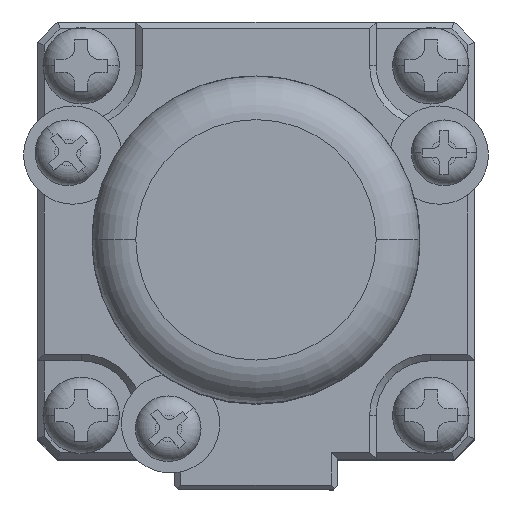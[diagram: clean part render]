
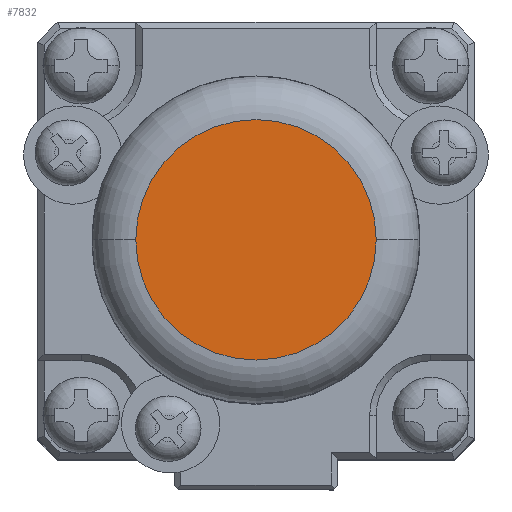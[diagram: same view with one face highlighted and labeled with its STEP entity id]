
A CAD part, top view. The second image highlights one B-rep face of the part: STEP entity #7832.
In plain terms, the highlighted planar face has unit normal (0, 0, 1).
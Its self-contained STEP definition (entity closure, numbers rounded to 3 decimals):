
#124 = AXIS2_PLACEMENT_3D ( 'NONE', #3287, #3288, #3289 ) ;
#126 = AXIS2_PLACEMENT_3D ( 'NONE', #3293, #3294, #3295 ) ;
#550 = VERTEX_POINT ( 'NONE', #922 ) ;
#551 = VERTEX_POINT ( 'NONE', #923 ) ;
#922 = CARTESIAN_POINT ( 'NONE',  ( -5.5, 0., 128.3 ) ) ;
#923 = CARTESIAN_POINT ( 'NONE',  ( 5.5, 0., 128.3 ) ) ;
#1059 = ORIENTED_EDGE ( 'NONE', *, *, #3532, .F. ) ;
#1210 = AXIS2_PLACEMENT_3D ( 'NONE', #7745, #7746, #7747 ) ;
#2288 = ORIENTED_EDGE ( 'NONE', *, *, #3530, .F. ) ;
#2794 = EDGE_LOOP ( 'NONE', ( #1059, #2288 ) ) ;
#3287 = CARTESIAN_POINT ( 'NONE',  ( 0., 0., 128.3 ) ) ;
#3288 = DIRECTION ( 'NONE',  ( 0., 0., -1. ) ) ;
#3289 = DIRECTION ( 'NONE',  ( 1., 0., 0. ) ) ;
#3293 = CARTESIAN_POINT ( 'NONE',  ( 0., 0., 128.3 ) ) ;
#3294 = DIRECTION ( 'NONE',  ( 0., 0., -1. ) ) ;
#3295 = DIRECTION ( 'NONE',  ( 1., 0., 0. ) ) ;
#3530 = EDGE_CURVE ( 'NONE', #550, #551, #4826, .T. ) ;
#3532 = EDGE_CURVE ( 'NONE', #551, #550, #4829, .T. ) ;
#4826 = CIRCLE ( 'NONE', #124, 5.5 ) ;
#4829 = CIRCLE ( 'NONE', #126, 5.5 ) ;
#5066 = FACE_OUTER_BOUND ( 'NONE', #2794, .T. ) ;
#7744 = PLANE ( 'NONE',  #1210 ) ;
#7745 = CARTESIAN_POINT ( 'NONE',  ( -5.775, -5.775, 128.3 ) ) ;
#7746 = DIRECTION ( 'NONE',  ( 0., 0., 1. ) ) ;
#7747 = DIRECTION ( 'NONE',  ( 1., 0., 0. ) ) ;
#7832 = ADVANCED_FACE ( 'NONE', ( #5066 ), #7744, .T. ) ;
